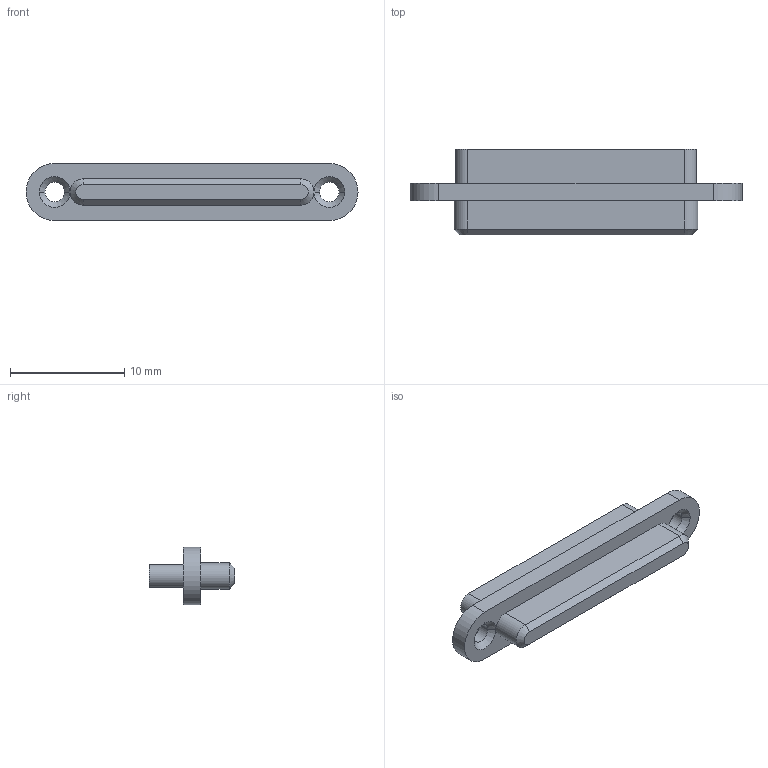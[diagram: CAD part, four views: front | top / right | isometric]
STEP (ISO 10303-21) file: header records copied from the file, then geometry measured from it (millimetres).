
FILE_DESCRIPTION((''),'2;1');
FILE_NAME('TOP_LED3','2024-12-18T',('18137'),(''),'CREO PARAMETRIC BY PTC INC, 2016050','CREO PARAMETRIC BY PTC INC, 2016050','');
FILE_SCHEMA(('CONFIG_CONTROL_DESIGN'));
Length unit declared in the file: millimetre
Products named in the file (1): TOP_LED3
Bounding box: 29 x 7.5 x 5 mm (x, y, z)
Volume: 462.5 mm3; surface area: 634.3 mm2
Topology: 1 solids, 1 shells, 28 faces, 66 edges, 40 vertices
Faces by surface type: plane 12, cylinder 10, cone 6
Entity records: 848 total; most frequent: DIRECTION 150, CARTESIAN_POINT 134, ORIENTED_EDGE 132, EDGE_CURVE 66, AXIS2_PLACEMENT_3D 56, VERTEX_POINT 40, VECTOR 38, LINE 38
